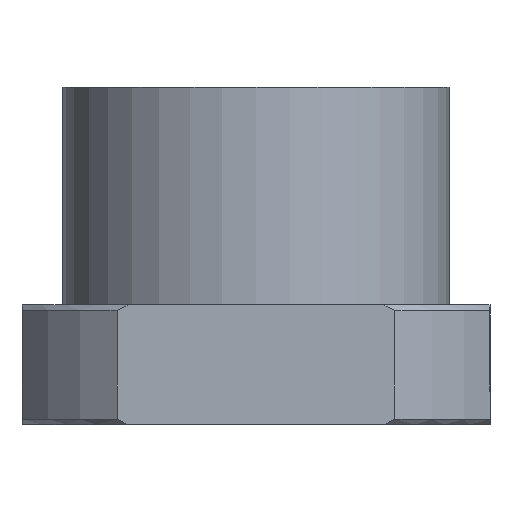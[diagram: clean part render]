
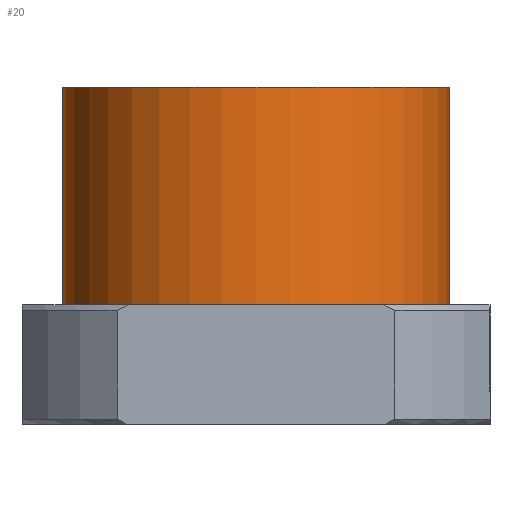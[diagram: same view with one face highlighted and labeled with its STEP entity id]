
A CAD part, front view. The second image highlights one B-rep face of the part: STEP entity #20.
In plain terms, the highlighted cylindrical face has radius 35.5 mm (diameter 71 mm), a partial arc.
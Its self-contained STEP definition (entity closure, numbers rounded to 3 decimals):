
#13 = VERTEX_POINT ( 'NONE', #1273 ) ;
#20 = ADVANCED_FACE ( 'NONE', ( #1309 ), #1310, .T. ) ;
#43 = EDGE_LOOP ( 'NONE', ( #679, #1082, #1058, #993 ) ) ;
#102 = EDGE_CURVE ( 'NONE', #13, #1081, #205, .T. ) ;
#205 = CIRCLE ( 'NONE', #206, 35.5 ) ;
#206 = AXIS2_PLACEMENT_3D ( 'NONE', #207, #208, #209 ) ;
#207 = CARTESIAN_POINT ( 'NONE',  ( 0., 0., 0. ) ) ;
#208 = DIRECTION ( 'NONE',  ( 0., 0., -1. ) ) ;
#209 = DIRECTION ( 'NONE',  ( -1., 0., 0. ) ) ;
#226 = CIRCLE ( 'NONE', #227, 35.5 ) ;
#227 = AXIS2_PLACEMENT_3D ( 'NONE', #228, #229, #230 ) ;
#228 = CARTESIAN_POINT ( 'NONE',  ( 0., 0., 40. ) ) ;
#229 = DIRECTION ( 'NONE',  ( 0., 0., 1. ) ) ;
#230 = DIRECTION ( 'NONE',  ( 1., 0., 0. ) ) ;
#380 = CARTESIAN_POINT ( 'NONE',  ( 35.5, 0., 40. ) ) ;
#382 = LINE ( 'NONE', #383, #384 ) ;
#383 = CARTESIAN_POINT ( 'NONE',  ( 35.5, 0., 40. ) ) ;
#384 = VECTOR ( 'NONE', #385, 1000. ) ;
#385 = DIRECTION ( 'NONE',  ( 0., 0., -1. ) ) ;
#451 = CARTESIAN_POINT ( 'NONE',  ( -35.5, 0., 40. ) ) ;
#665 = CARTESIAN_POINT ( 'NONE',  ( -35.5, 0., 0. ) ) ;
#679 = ORIENTED_EDGE ( 'NONE', *, *, #1139, .F. ) ;
#988 = EDGE_CURVE ( 'NONE', #1024, #1011, #226, .T. ) ;
#993 = ORIENTED_EDGE ( 'NONE', *, *, #102, .F. ) ;
#1011 = VERTEX_POINT ( 'NONE', #380 ) ;
#1024 = VERTEX_POINT ( 'NONE', #451 ) ;
#1058 = ORIENTED_EDGE ( 'NONE', *, *, #1163, .T. ) ;
#1081 = VERTEX_POINT ( 'NONE', #665 ) ;
#1082 = ORIENTED_EDGE ( 'NONE', *, *, #988, .F. ) ;
#1139 = EDGE_CURVE ( 'NONE', #1011, #13, #382, .T. ) ;
#1163 = EDGE_CURVE ( 'NONE', #1024, #1081, #1292, .T. ) ;
#1273 = CARTESIAN_POINT ( 'NONE',  ( 35.5, 0., 0. ) ) ;
#1292 = LINE ( 'NONE', #1293, #1294 ) ;
#1293 = CARTESIAN_POINT ( 'NONE',  ( -35.5, 0., 40. ) ) ;
#1294 = VECTOR ( 'NONE', #1295, 1000. ) ;
#1295 = DIRECTION ( 'NONE',  ( 0., 0., -1. ) ) ;
#1309 = FACE_OUTER_BOUND ( 'NONE', #43, .T. ) ;
#1310 = CYLINDRICAL_SURFACE ( 'NONE', #1311, 35.5 ) ;
#1311 = AXIS2_PLACEMENT_3D ( 'NONE', #1312, #1313, #1314 ) ;
#1312 = CARTESIAN_POINT ( 'NONE',  ( 0., 0., 40. ) ) ;
#1313 = DIRECTION ( 'NONE',  ( 0., 0., -1. ) ) ;
#1314 = DIRECTION ( 'NONE',  ( -1., 0., 0. ) ) ;
